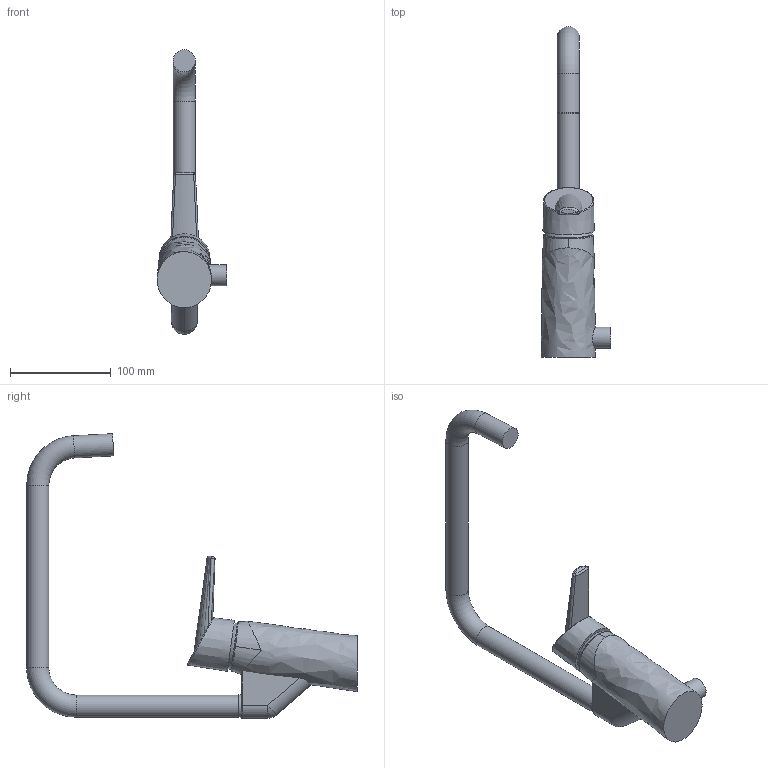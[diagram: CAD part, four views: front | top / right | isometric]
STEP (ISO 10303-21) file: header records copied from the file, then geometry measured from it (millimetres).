
FILE_DESCRIPTION (( 'STEP AP214' ), '1' );
FILE_NAME ('2734F(2013).STEP', '2018-01-15T12:39:29', ( '' ), ( '' ), 'SwSTEP 2.0', 'SolidWorks 2016', '' );
FILE_SCHEMA (( 'AUTOMOTIVE_DESIGN' ));
Length unit declared in the file: millimetre
Products named in the file (1): 2734F(2013)
Bounding box: 68.88 x 327.98 x 282.34 mm (x, y, z)
Volume: 617598.9 mm3; surface area: 82604.4 mm2
Topology: 3 solids, 3 shells, 56 faces, 111 edges, 64 vertices
Faces by surface type: plane 17, bspline 14, cylinder 13, torus 6, sphere 5, cone 1
Full cylindrical faces by diameter (mm): 20.9 x1, 22 x3, 22.752 x1
Entity records: 4571 total; most frequent: CARTESIAN_POINT 2928, ORIENTED_EDGE 186, DIRECTION 182, EDGE_CURVE 93, AXIS2_PLACEMENT_3D 81, EDGE_LOOP 74, FACE_OUTER_BOUND 67, UNCERTAINTY_MEASURE_WITH_UNIT 61
